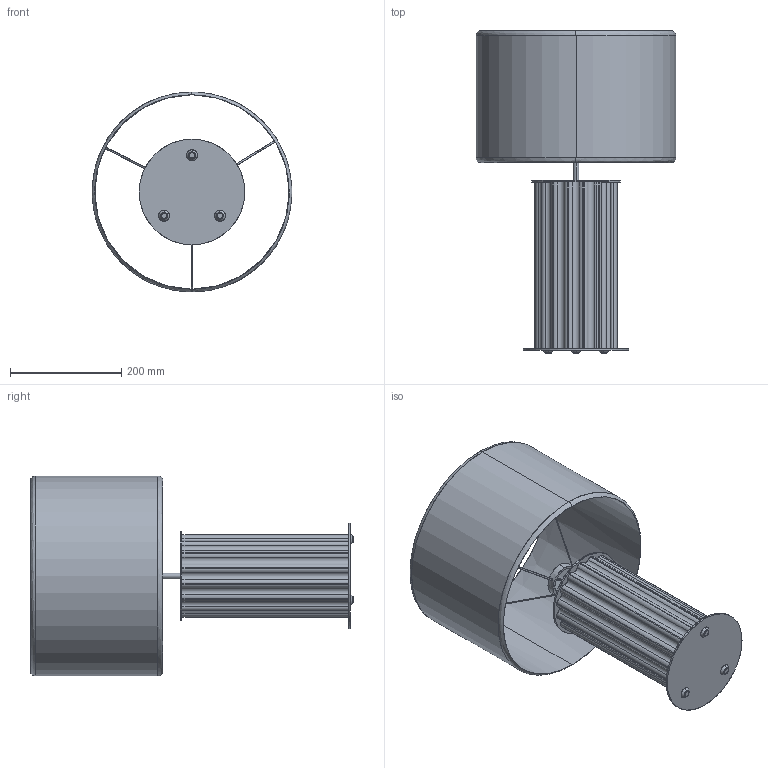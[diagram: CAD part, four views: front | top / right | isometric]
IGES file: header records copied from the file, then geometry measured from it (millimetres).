
Start section: SolidWorks IGES file using analytic representation for surfaces
Global section: file name: C:\Users\Maripaz\Desktop\NAC 116\NAC 116.IGS; native system: SolidWorks 2017; preprocessor: SolidWorks 2017; author: Maripaz; date: 190304.165951; units: millimetre
Bounding box: 360 x 579.95 x 360 mm (x, y, z)
Surface area: 842340 mm2 (no closed solid volume)
Topology: 0 solids, 0 shells, 158 faces, 2220 edges, 2220 vertices
Faces by surface type: revolution 95, bspline 63
